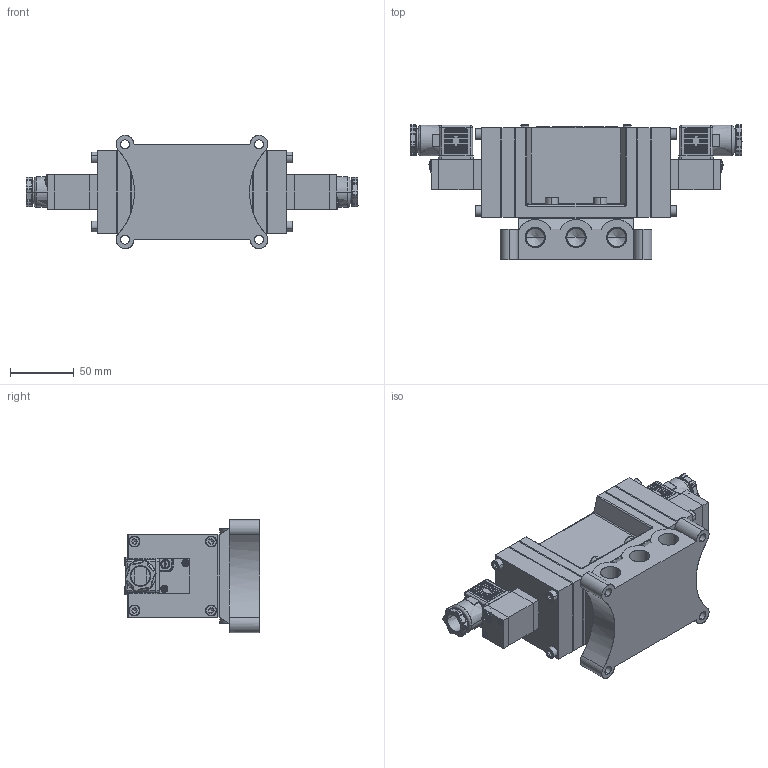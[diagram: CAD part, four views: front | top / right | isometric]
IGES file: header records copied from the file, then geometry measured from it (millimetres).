
Start section: SolidWorks IGES file using analytic representation for surfaces
Global section: file name: D:\Custom\3D繪製\PM\PM10\PMD3410#-03-#C#.IGS,1; native system: 5HSolidWorks 2014; preprocessor: SolidWorks 2014; author: Chieh_Lu; date: 150912.104640; units: millimetre
Bounding box: 260 x 106.35 x 88.61 mm (x, y, z)
Surface area: 221964.7 mm2 (no closed solid volume)
Topology: 0 solids, 0 shells, 1860 faces, 18298 edges, 17992 vertices
Faces by surface type: revolution 1004, bspline 856
